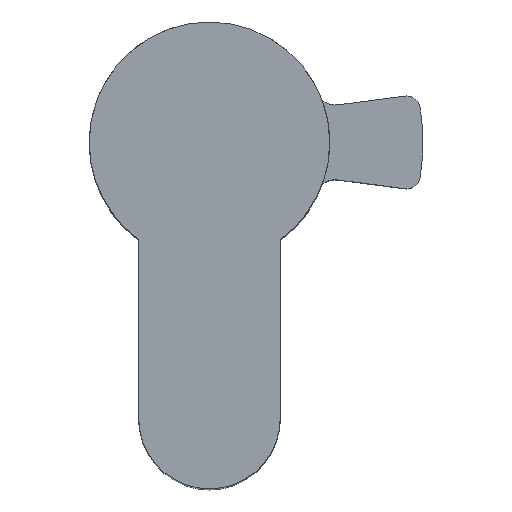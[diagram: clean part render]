
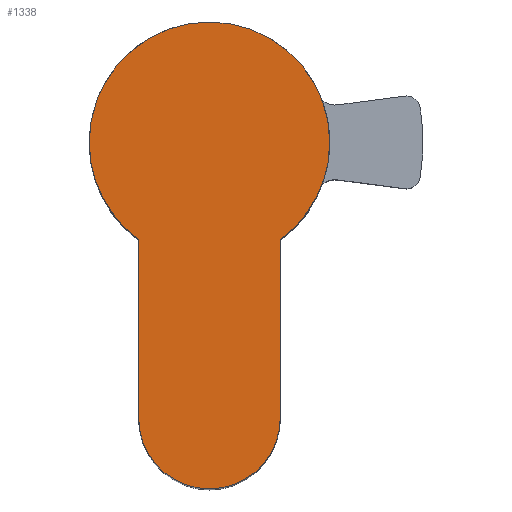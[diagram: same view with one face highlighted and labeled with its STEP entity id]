
A CAD part, top view. The second image highlights one B-rep face of the part: STEP entity #1338.
In plain terms, the highlighted planar face has unit normal (0, 0, 1).
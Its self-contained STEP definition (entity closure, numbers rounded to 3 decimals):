
#5 = ORIENTED_EDGE ( 'NONE', *, *, #530, .T. ) ;
#95 = CARTESIAN_POINT ( 'NONE',  ( 5., -19.5, 10. ) ) ;
#104 = VERTEX_POINT ( 'NONE', #941 ) ;
#157 = CIRCLE ( 'NONE', #1028, 8.5 ) ;
#172 = EDGE_CURVE ( 'NONE', #104, #734, #157, .T. ) ;
#181 = CARTESIAN_POINT ( 'NONE',  ( 0., -19.5, 10. ) ) ;
#182 = CIRCLE ( 'NONE', #336, 5. ) ;
#190 = CARTESIAN_POINT ( 'NONE',  ( 8.5, 0., 10. ) ) ;
#304 = CARTESIAN_POINT ( 'NONE',  ( 0., 0., 10. ) ) ;
#332 = DIRECTION ( 'NONE',  ( 0., 0., 1. ) ) ;
#336 = AXIS2_PLACEMENT_3D ( 'NONE', #181, #1234, #639 ) ;
#339 = ORIENTED_EDGE ( 'NONE', *, *, #172, .T. ) ;
#439 = EDGE_CURVE ( 'NONE', #1124, #786, #182, .T. ) ;
#444 = CARTESIAN_POINT ( 'NONE',  ( 5., -19.5, 10. ) ) ;
#503 = ORIENTED_EDGE ( 'NONE', *, *, #439, .T. ) ;
#517 = VERTEX_POINT ( 'NONE', #694 ) ;
#530 = EDGE_CURVE ( 'NONE', #734, #1169, #1009, .T. ) ;
#561 = DIRECTION ( 'NONE',  ( 1., 0., 0. ) ) ;
#639 = DIRECTION ( 'NONE',  ( 1., 0., 0. ) ) ;
#650 = AXIS2_PLACEMENT_3D ( 'NONE', #304, #774, #561 ) ;
#661 = DIRECTION ( 'NONE',  ( 0., 1., 0. ) ) ;
#694 = CARTESIAN_POINT ( 'NONE',  ( -5., -6.874, 10. ) ) ;
#706 = EDGE_CURVE ( 'NONE', #517, #1124, #1041, .T. ) ;
#725 = EDGE_CURVE ( 'NONE', #1169, #517, #1178, .T. ) ;
#734 = VERTEX_POINT ( 'NONE', #190 ) ;
#753 = VECTOR ( 'NONE', #1030, 1000. ) ;
#774 = DIRECTION ( 'NONE',  ( 0., 0., 1. ) ) ;
#784 = LINE ( 'NONE', #444, #1125 ) ;
#786 = VERTEX_POINT ( 'NONE', #95 ) ;
#941 = CARTESIAN_POINT ( 'NONE',  ( 5., -6.874, 10. ) ) ;
#942 = ORIENTED_EDGE ( 'NONE', *, *, #725, .T. ) ;
#981 = EDGE_CURVE ( 'NONE', #786, #104, #784, .T. ) ;
#1003 = ORIENTED_EDGE ( 'NONE', *, *, #981, .T. ) ;
#1009 = CIRCLE ( 'NONE', #1430, 8.5 ) ;
#1028 = AXIS2_PLACEMENT_3D ( 'NONE', #1287, #1425, #1294 ) ;
#1030 = DIRECTION ( 'NONE',  ( 0., -1., 0. ) ) ;
#1041 = LINE ( 'NONE', #1396, #753 ) ;
#1055 = CARTESIAN_POINT ( 'NONE',  ( 0., 0., 10. ) ) ;
#1081 = CARTESIAN_POINT ( 'NONE',  ( -5., -19.5, 10. ) ) ;
#1110 = CARTESIAN_POINT ( 'NONE',  ( 0., 0., 10. ) ) ;
#1118 = EDGE_LOOP ( 'NONE', ( #339, #5, #942, #1324, #503, #1003 ) ) ;
#1124 = VERTEX_POINT ( 'NONE', #1081 ) ;
#1125 = VECTOR ( 'NONE', #661, 1000. ) ;
#1136 = DIRECTION ( 'NONE',  ( 1., 0., 0. ) ) ;
#1145 = DIRECTION ( 'NONE',  ( 0., 0., 1. ) ) ;
#1169 = VERTEX_POINT ( 'NONE', #1543 ) ;
#1178 = CIRCLE ( 'NONE', #650, 8.5 ) ;
#1224 = PLANE ( 'NONE',  #1282 ) ;
#1234 = DIRECTION ( 'NONE',  ( 0., 0., 1. ) ) ;
#1282 = AXIS2_PLACEMENT_3D ( 'NONE', #1110, #332, #1136 ) ;
#1287 = CARTESIAN_POINT ( 'NONE',  ( 0., 0., 10. ) ) ;
#1294 = DIRECTION ( 'NONE',  ( 1., 0., 0. ) ) ;
#1324 = ORIENTED_EDGE ( 'NONE', *, *, #706, .T. ) ;
#1338 = ADVANCED_FACE ( 'NONE', ( #1345 ), #1224, .T. ) ;
#1345 = FACE_OUTER_BOUND ( 'NONE', #1118, .T. ) ;
#1396 = CARTESIAN_POINT ( 'NONE',  ( -5., -6.874, 10. ) ) ;
#1425 = DIRECTION ( 'NONE',  ( 0., 0., 1. ) ) ;
#1430 = AXIS2_PLACEMENT_3D ( 'NONE', #1055, #1145, #1535 ) ;
#1535 = DIRECTION ( 'NONE',  ( 1., 0., 0. ) ) ;
#1543 = CARTESIAN_POINT ( 'NONE',  ( -8.5, 0., 10. ) ) ;
